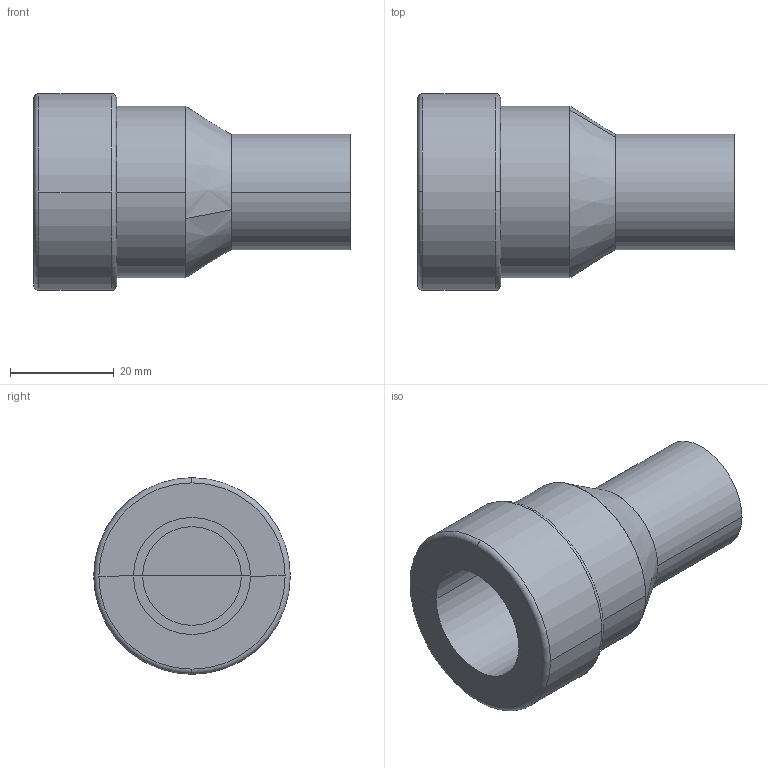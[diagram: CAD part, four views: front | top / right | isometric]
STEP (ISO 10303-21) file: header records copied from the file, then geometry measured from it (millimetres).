
FILE_DESCRIPTION (( 'STEP AP203' ), '1' );
FILE_NAME ('Viega_MegaPress_Coupling,Transition4813-4ZL - 3_4in.STEP', '2025-02-21T14:53:06', ( '' ), ( '' ), 'SwSTEP 2.0', 'SolidWorks 2020', '' );
FILE_SCHEMA (( 'CONFIG_CONTROL_DESIGN' ));
Length unit declared in the file: millimetre
Products named in the file (1): Viega_MegaPress_Coupling,Transition4813-4ZL - 3_4in
Bounding box: 61.12 x 37.95 x 37.95 mm (x, y, z)
Volume: 43562.5 mm3; surface area: 17011.3 mm2
Topology: 5 solids, 5 shells, 36 faces, 76 edges, 48 vertices
Faces by surface type: plane 16, cylinder 14, torus 4, cone 2
Entity records: 1065 total; most frequent: DIRECTION 202, CARTESIAN_POINT 161, ORIENTED_EDGE 152, AXIS2_PLACEMENT_3D 89, EDGE_CURVE 76, CIRCLE 52, VERTEX_POINT 48, EDGE_LOOP 38
